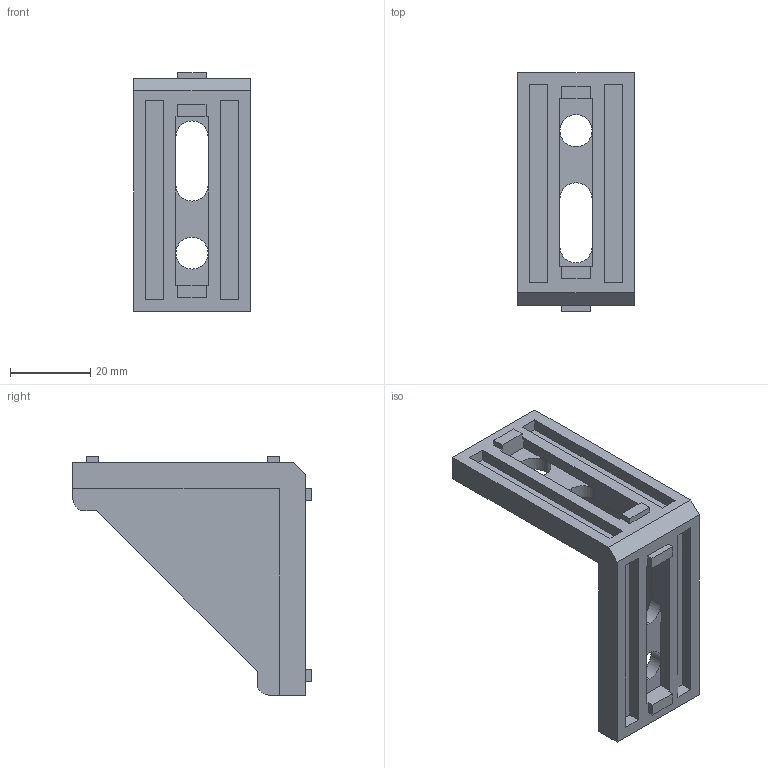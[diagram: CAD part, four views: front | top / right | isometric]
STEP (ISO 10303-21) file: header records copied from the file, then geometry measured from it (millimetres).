
FILE_DESCRIPTION (( 'STEP AP203' ), '1' );
FILE_NAME ('1027.STEP', '2016-03-27T14:34:08', ( '' ), ( '' ), 'SwSTEP 2.0', 'SolidWorks 2014', '' );
FILE_SCHEMA (( 'CONFIG_CONTROL_DESIGN' ));
Length unit declared in the file: millimetre
Products named in the file (1): 1027
Bounding box: 29 x 59.5 x 59.5 mm (x, y, z)
Volume: 18562 mm3; surface area: 12427.5 mm2
Topology: 1 solids, 1 shells, 77 faces, 213 edges, 140 vertices
Faces by surface type: plane 63, cylinder 14
Entity records: 2522 total; most frequent: CARTESIAN_POINT 431, ORIENTED_EDGE 426, DIRECTION 399, EDGE_CURVE 213, LINE 183, VECTOR 183, VERTEX_POINT 140, AXIS2_PLACEMENT_3D 108
